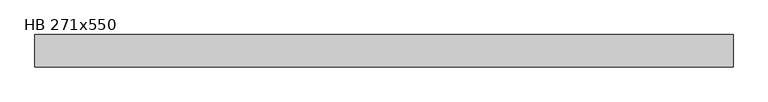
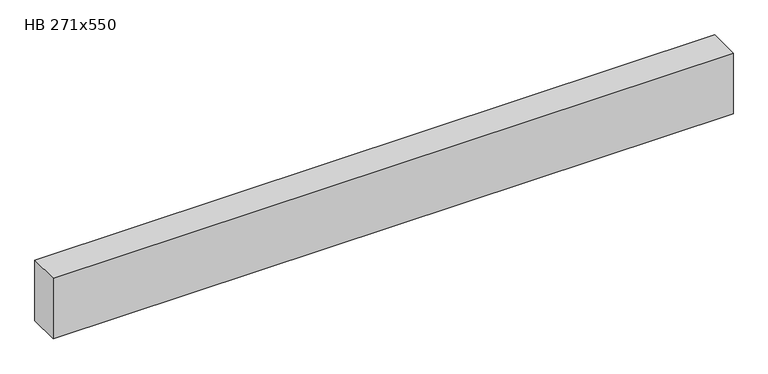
"""IFC4 building model written with IfcOpenShell, lengths in millimetres: beam geometry, NLRS_28_SF_LIB_balk hout gelamineerd_generiek_ISR : HB 271x550."""

from ifc_helpers import new_model, si_unit, frame, origin, place, context, project, spatial, polyline, outline, extrude, source, transform, mapped, element, save


def hb_271x550_1aaee8ac(model_context):
    return source(origin(), model_context, "Body", "SweptSolid", [
        extrude(outline(polyline([(3803.2314199, 135.5), (3803.2314199, -135.5), (-2038.7685804, -135.5), (-2038.7685804, 135.5), (3803.2314199, 135.5)])), frame((0.0, 0.0, -275.0), z_axis=(0.0, 0.0, 1.0), x_axis=(1.0, 0.0, 0.0)), (0.0, 0.0, 1.0), 550.0),
    ])


if __name__ == "__main__":
    model = new_model("IFC4")
    model_context = context("Model", 3, world=origin())
    ifc_project = project(units=[si_unit("LENGTHUNIT", "METRE", prefix="MILLI")], contexts=[model_context])
    site = spatial("IfcSite", under=ifc_project)
    building = spatial("IfcBuilding", under=site)
    placement = place(None, origin())
    hb_271x550_shape = hb_271x550_1aaee8ac(model_context)
    element("IfcBeam", 1, ObjectType="NLRS_28_SF_LIB_balk hout gelamineerd_generiek_ISR : HB 271x550", at=placement, inside=building, context=model_context, shape_type="MappedRepresentation", body=[
        mapped(hb_271x550_shape, transform((0.0, 0.0, 0.0), x_axis=(1.0, 0.0, 0.0), y_axis=(0.0, 1.0, 0.0), z_axis=(0.0, 0.0, 1.0))),
    ])
    save(model, "model.ifc")
